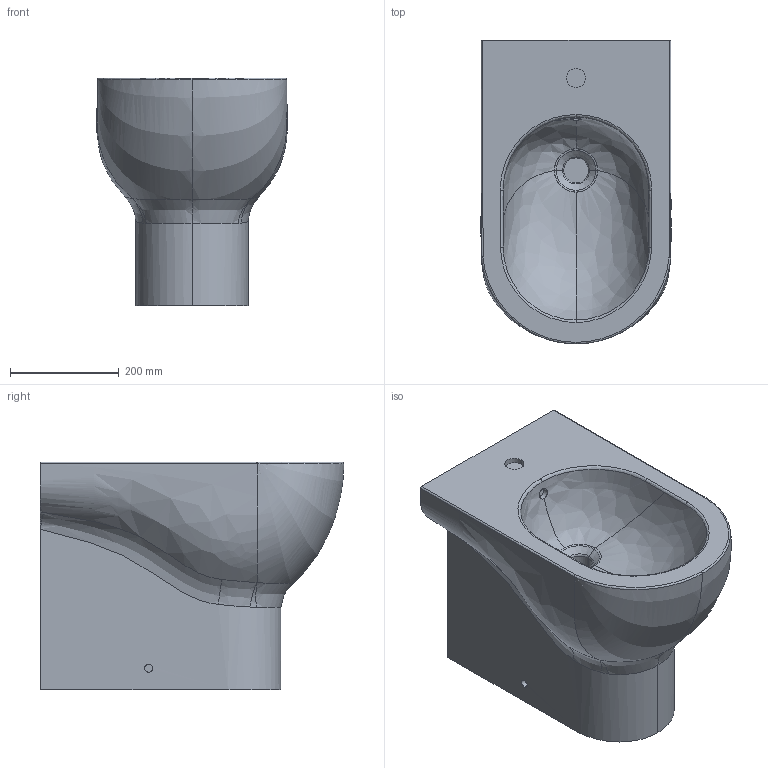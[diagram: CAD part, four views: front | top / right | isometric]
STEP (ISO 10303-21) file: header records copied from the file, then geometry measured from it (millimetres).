
FILE_DESCRIPTION (( 'STEP AP214' ), '1' );
FILE_NAME ('NUV500.STEP', '2017-12-07T11:09:10', ( '' ), ( '' ), 'SwSTEP 2.0', 'SolidWorks 2018', '' );
FILE_SCHEMA (( 'AUTOMOTIVE_DESIGN' ));
Length unit declared in the file: millimetre
Products named in the file (1): NUV500
Bounding box: 351.02 x 559.98 x 420 mm (x, y, z)
Volume: 43055506.5 mm3; surface area: 964566.1 mm2
Topology: 1 solids, 1 shells, 74 faces, 179 edges, 113 vertices
Faces by surface type: bspline 38, cylinder 19, plane 11, torus 4, cone 2
Entity records: 21121 total; most frequent: CARTESIAN_POINT 19643, ORIENTED_EDGE 358, DIRECTION 192, EDGE_CURVE 179, VERTEX_POINT 113, B_SPLINE_CURVE_WITH_KNOTS 99, EDGE_LOOP 80, AXIS2_PLACEMENT_3D 75
